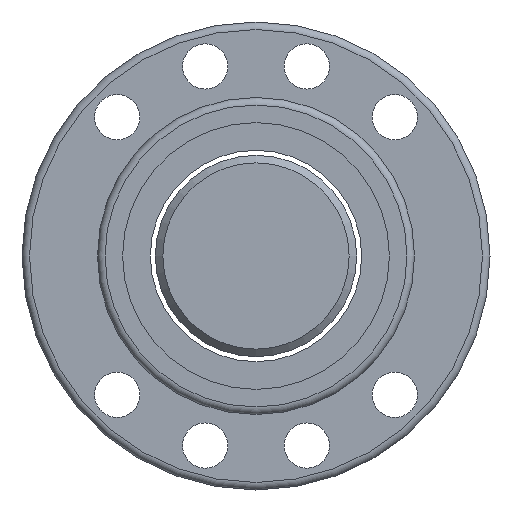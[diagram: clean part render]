
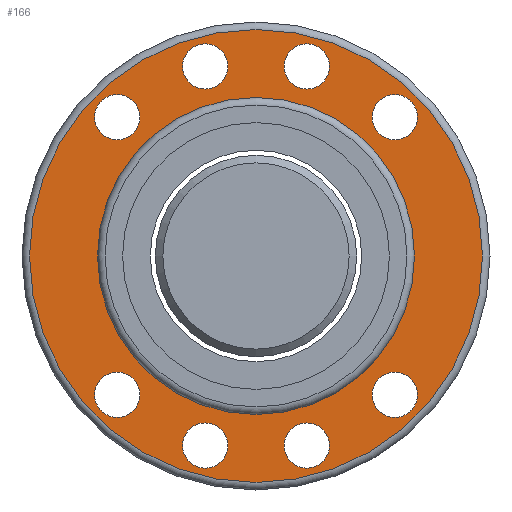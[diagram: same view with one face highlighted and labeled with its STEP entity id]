
A CAD part, left-side view. The second image highlights one B-rep face of the part: STEP entity #166.
In plain terms, the highlighted planar face has unit normal (-1, 0, 0).
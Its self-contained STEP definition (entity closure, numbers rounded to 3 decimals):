
#123=PLANE('',#722);
#140=FACE_OUTER_BOUND('',#347,.T.);
#166=ADVANCED_FACE('',(#241,#242,#243,#244,#245,#246,#247,#248,#140,#249),
#123,.T.);
#241=FACE_BOUND('',#339,.T.);
#242=FACE_BOUND('',#340,.T.);
#243=FACE_BOUND('',#341,.T.);
#244=FACE_BOUND('',#342,.T.);
#245=FACE_BOUND('',#343,.T.);
#246=FACE_BOUND('',#344,.T.);
#247=FACE_BOUND('',#345,.T.);
#248=FACE_BOUND('',#346,.T.);
#249=FACE_BOUND('',#348,.T.);
#339=EDGE_LOOP('',(#445));
#340=EDGE_LOOP('',(#446));
#341=EDGE_LOOP('',(#447));
#342=EDGE_LOOP('',(#448));
#343=EDGE_LOOP('',(#449));
#344=EDGE_LOOP('',(#450));
#345=EDGE_LOOP('',(#451));
#346=EDGE_LOOP('',(#452));
#347=EDGE_LOOP('',(#453));
#348=EDGE_LOOP('',(#454));
#445=ORIENTED_EDGE('',*,*,#588,.F.);
#446=ORIENTED_EDGE('',*,*,#589,.F.);
#447=ORIENTED_EDGE('',*,*,#590,.F.);
#448=ORIENTED_EDGE('',*,*,#591,.F.);
#449=ORIENTED_EDGE('',*,*,#592,.F.);
#450=ORIENTED_EDGE('',*,*,#593,.F.);
#451=ORIENTED_EDGE('',*,*,#594,.F.);
#452=ORIENTED_EDGE('',*,*,#595,.F.);
#453=ORIENTED_EDGE('',*,*,#596,.T.);
#454=ORIENTED_EDGE('',*,*,#586,.F.);
#533=VERTEX_POINT('',#1027);
#535=VERTEX_POINT('',#1032);
#536=VERTEX_POINT('',#1034);
#537=VERTEX_POINT('',#1036);
#538=VERTEX_POINT('',#1038);
#539=VERTEX_POINT('',#1040);
#540=VERTEX_POINT('',#1042);
#541=VERTEX_POINT('',#1044);
#542=VERTEX_POINT('',#1046);
#543=VERTEX_POINT('',#1048);
#586=EDGE_CURVE('',#533,#533,#639,.T.);
#588=EDGE_CURVE('',#535,#535,#641,.T.);
#589=EDGE_CURVE('',#536,#536,#642,.T.);
#590=EDGE_CURVE('',#537,#537,#643,.T.);
#591=EDGE_CURVE('',#538,#538,#644,.T.);
#592=EDGE_CURVE('',#539,#539,#645,.T.);
#593=EDGE_CURVE('',#540,#540,#646,.T.);
#594=EDGE_CURVE('',#541,#541,#647,.T.);
#595=EDGE_CURVE('',#542,#542,#648,.T.);
#596=EDGE_CURVE('',#543,#543,#649,.T.);
#639=CIRCLE('',#710,31.5);
#641=CIRCLE('',#713,4.5);
#642=CIRCLE('',#714,4.5);
#643=CIRCLE('',#715,4.5);
#644=CIRCLE('',#716,4.5);
#645=CIRCLE('',#717,4.5);
#646=CIRCLE('',#718,4.5);
#647=CIRCLE('',#719,4.5);
#648=CIRCLE('',#720,4.5);
#649=CIRCLE('',#721,45.);
#710=AXIS2_PLACEMENT_3D('',#1026,#844,#845);
#713=AXIS2_PLACEMENT_3D('',#1031,#850,#851);
#714=AXIS2_PLACEMENT_3D('',#1033,#852,#853);
#715=AXIS2_PLACEMENT_3D('',#1035,#854,#855);
#716=AXIS2_PLACEMENT_3D('',#1037,#856,#857);
#717=AXIS2_PLACEMENT_3D('',#1039,#858,#859);
#718=AXIS2_PLACEMENT_3D('',#1041,#860,#861);
#719=AXIS2_PLACEMENT_3D('',#1043,#862,#863);
#720=AXIS2_PLACEMENT_3D('',#1045,#864,#865);
#721=AXIS2_PLACEMENT_3D('',#1047,#866,#867);
#722=AXIS2_PLACEMENT_3D('',#1049,#868,#869);
#844=DIRECTION('',(-1.,0.,0.));
#845=DIRECTION('',(0.,0.,1.));
#850=DIRECTION('',(-1.,0.,0.));
#851=DIRECTION('',(0.,0.,1.));
#852=DIRECTION('',(-1.,0.,0.));
#853=DIRECTION('',(0.,0.,1.));
#854=DIRECTION('',(-1.,0.,0.));
#855=DIRECTION('',(0.,0.,1.));
#856=DIRECTION('',(-1.,0.,0.));
#857=DIRECTION('',(0.,0.,1.));
#858=DIRECTION('',(-1.,0.,0.));
#859=DIRECTION('',(0.,0.,1.));
#860=DIRECTION('',(-1.,0.,0.));
#861=DIRECTION('',(0.,0.,1.));
#862=DIRECTION('',(-1.,0.,0.));
#863=DIRECTION('',(0.,0.,1.));
#864=DIRECTION('',(-1.,0.,0.));
#865=DIRECTION('',(0.,0.,1.));
#866=DIRECTION('',(-1.,0.,0.));
#867=DIRECTION('',(0.,0.,1.));
#868=DIRECTION('',(-1.,0.,0.));
#869=DIRECTION('',(0.,0.,1.));
#1026=CARTESIAN_POINT('',(-34.,0.,0.));
#1027=CARTESIAN_POINT('',(-34.,0.,31.5));
#1031=CARTESIAN_POINT('',(-34.,27.573,27.578));
#1032=CARTESIAN_POINT('',(-34.,27.573,32.078));
#1033=CARTESIAN_POINT('',(-34.,27.578,-27.573));
#1034=CARTESIAN_POINT('',(-34.,27.578,-23.073));
#1035=CARTESIAN_POINT('',(-34.,10.097,-37.668));
#1036=CARTESIAN_POINT('',(-34.,10.097,-33.168));
#1037=CARTESIAN_POINT('',(-34.,-10.09,-37.67));
#1038=CARTESIAN_POINT('',(-34.,-10.09,-33.17));
#1039=CARTESIAN_POINT('',(-34.,-27.573,-27.578));
#1040=CARTESIAN_POINT('',(-34.,-27.573,-23.078));
#1041=CARTESIAN_POINT('',(-34.,-27.578,27.573));
#1042=CARTESIAN_POINT('',(-34.,-27.578,32.073));
#1043=CARTESIAN_POINT('',(-34.,-10.097,37.668));
#1044=CARTESIAN_POINT('',(-34.,-10.097,42.168));
#1045=CARTESIAN_POINT('',(-34.,10.09,37.67));
#1046=CARTESIAN_POINT('',(-34.,10.09,42.17));
#1047=CARTESIAN_POINT('',(-34.,0.,0.));
#1048=CARTESIAN_POINT('',(-34.,0.,45.));
#1049=CARTESIAN_POINT('',(-34.,38.25,0.));
